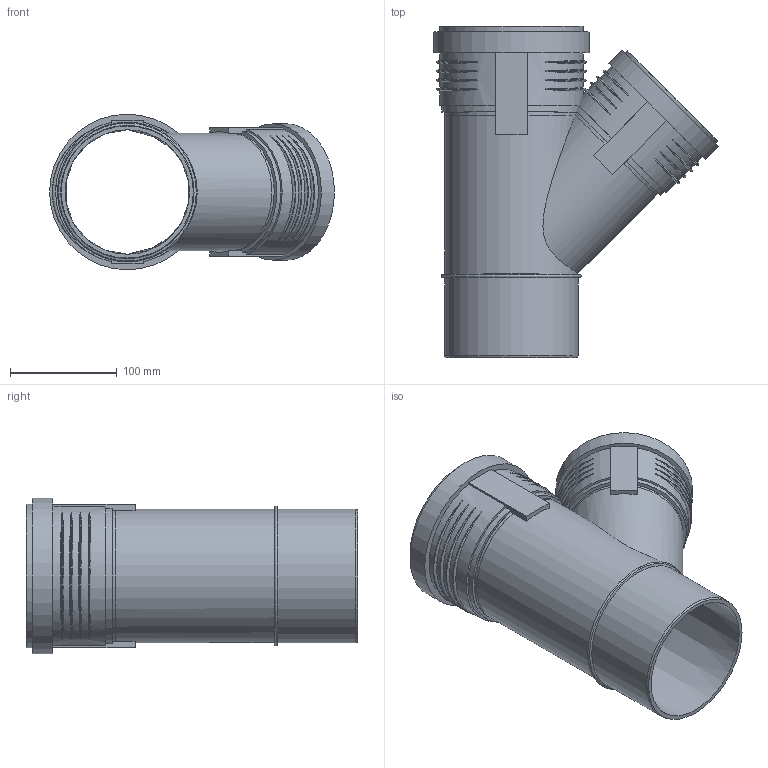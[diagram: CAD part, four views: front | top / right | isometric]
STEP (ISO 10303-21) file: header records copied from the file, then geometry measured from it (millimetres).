
FILE_DESCRIPTION(/* description */ (''),/* implementation_level */ '2;1');
FILE_NAME(/* name */ 'Z:\Geberit\Export\NewStep\390635.stp',/* time_stamp */ '2014-04-02T08:15:58+02:00',/* author */ ('ML'),/* organization */ (''),/* preprocessor_version */ 'ST-DEVELOPER v15.2',/* originating_system */ 'Autodesk Inventor 2014',/* authorisation */ '');
FILE_SCHEMA (('AUTOMOTIVE_DESIGN { 1 0 10303 214 3 1 1 }'));
Length unit declared in the file: millimetre
Products named in the file (4): 861602; 861404; 861625; 390635
Bounding box: 267.32 x 311.1 x 145.9 mm (x, y, z)
Volume: 708544.1 mm3; surface area: 369849.8 mm2
Topology: 3 solids, 3 shells, 129 faces, 318 edges, 221 vertices
Faces by surface type: torus 50, plane 38, cylinder 33, cone 8
Full cylindrical faces by diameter (mm): 103 x1, 103.2 x1, 110.2 x2, 113.3 x2, 117 x1, 120.3 x1, 121.1 x1, 125.2 x3, 126.4 x2, 128.1 x1, 134.6 x1, 137.7 x1, 145.9 x1
Entity records: 5396 total; most frequent: CARTESIAN_POINT 2357, ORIENTED_EDGE 566, DIRECTION 554, EDGE_CURVE 283, AXIS2_PLACEMENT_3D 241, VERTEX_POINT 212, EDGE_LOOP 189, ADVANCED_FACE 129
